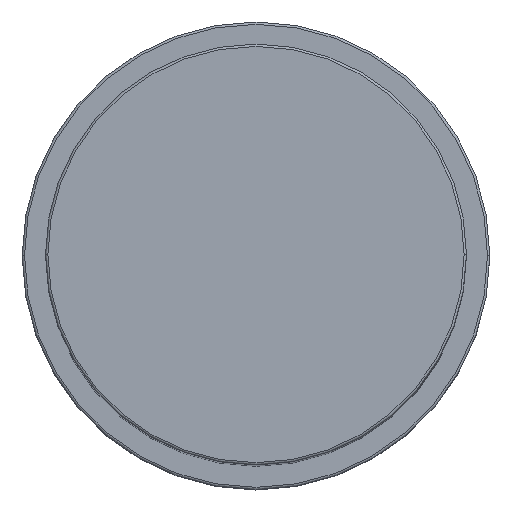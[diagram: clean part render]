
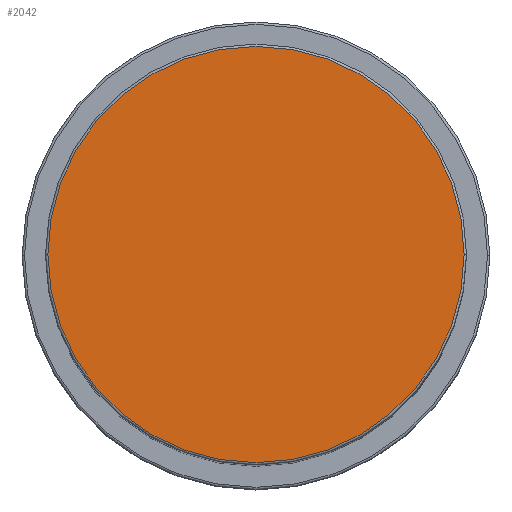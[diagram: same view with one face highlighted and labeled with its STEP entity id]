
A CAD part, top view. The second image highlights one B-rep face of the part: STEP entity #2042.
In plain terms, the highlighted planar face has unit normal (0, 0, 1).
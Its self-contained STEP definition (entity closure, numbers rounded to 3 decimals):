
#42 = AXIS2_PLACEMENT_3D ( 'NONE', #2003, #571, #106 ) ;
#97 = CARTESIAN_POINT ( 'NONE',  ( 0., 0., 179. ) ) ;
#106 = DIRECTION ( 'NONE',  ( 1., 0., 0. ) ) ;
#144 = CARTESIAN_POINT ( 'NONE',  ( 44.5, 0., 179. ) ) ;
#202 = AXIS2_PLACEMENT_3D ( 'NONE', #955, #1891, #1288 ) ;
#218 = EDGE_CURVE ( 'NONE', #682, #1114, #587, .T. ) ;
#444 = AXIS2_PLACEMENT_3D ( 'NONE', #97, #709, #1991 ) ;
#571 = DIRECTION ( 'NONE',  ( 0., 0., 1. ) ) ;
#587 = CIRCLE ( 'NONE', #202, 44.5 ) ;
#682 = VERTEX_POINT ( 'NONE', #144 ) ;
#709 = DIRECTION ( 'NONE',  ( 0., 0., 1. ) ) ;
#875 = PLANE ( 'NONE',  #444 ) ;
#955 = CARTESIAN_POINT ( 'NONE',  ( 0., 0., 179. ) ) ;
#957 = FACE_OUTER_BOUND ( 'NONE', #1676, .T. ) ;
#1089 = CARTESIAN_POINT ( 'NONE',  ( -44.5, 0., 179. ) ) ;
#1114 = VERTEX_POINT ( 'NONE', #1089 ) ;
#1288 = DIRECTION ( 'NONE',  ( 1., 0., 0. ) ) ;
#1392 = CIRCLE ( 'NONE', #42, 44.5 ) ;
#1607 = ORIENTED_EDGE ( 'NONE', *, *, #1624, .T. ) ;
#1624 = EDGE_CURVE ( 'NONE', #1114, #682, #1392, .T. ) ;
#1676 = EDGE_LOOP ( 'NONE', ( #2065, #1607 ) ) ;
#1891 = DIRECTION ( 'NONE',  ( 0., 0., 1. ) ) ;
#1991 = DIRECTION ( 'NONE',  ( 1., 0., 0. ) ) ;
#2003 = CARTESIAN_POINT ( 'NONE',  ( 0., 0., 179. ) ) ;
#2042 = ADVANCED_FACE ( 'NONE', ( #957 ), #875, .T. ) ;
#2065 = ORIENTED_EDGE ( 'NONE', *, *, #218, .T. ) ;
